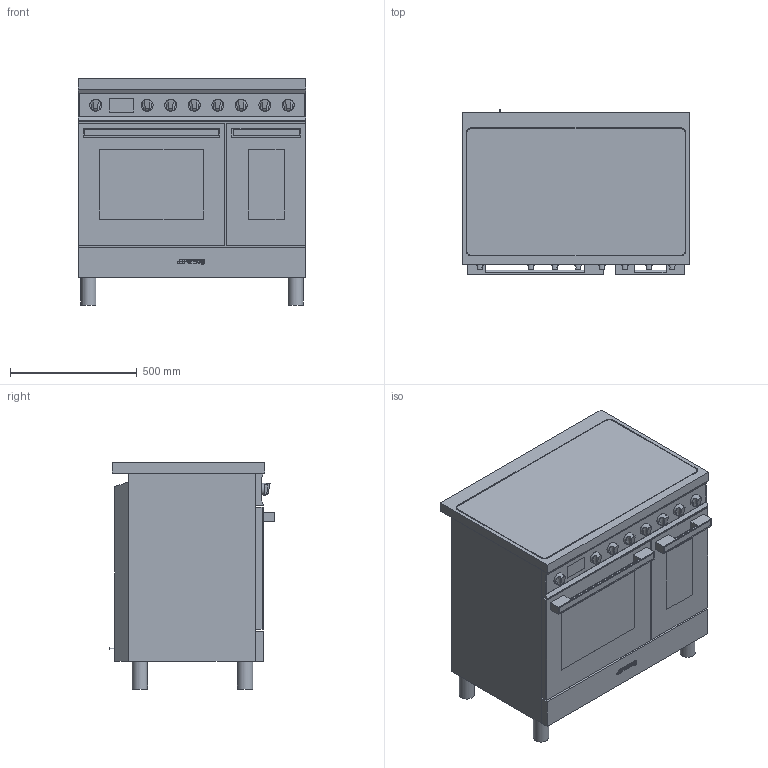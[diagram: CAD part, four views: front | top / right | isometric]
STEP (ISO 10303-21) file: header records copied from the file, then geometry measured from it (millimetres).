
FILE_DESCRIPTION(/* description */ (''),/* implementation_level */ '2;1');
FILE_NAME(/* name */ 'CPF92IMX.stp',/* time_stamp */ '2021-02-16T10:36:09+01:00',/* author */ (''),/* organization */ (''),/* preprocessor_version */ 'ST-DEVELOPER v16',/* originating_system */ 'SIEMENS PLM Software NX 11.0',/* authorisation */ '');
FILE_SCHEMA (('AUTOMOTIVE_DESIGN { 1 0 10303 214 3 1 1 1 }'));
Length unit declared in the file: millimetre
Products named in the file (1): Mart048817BCm2xd
Bounding box: 898 x 651.1 x 892.8 mm (x, y, z)
Volume: 405773121.9 mm3; surface area: 9680656 mm2
Topology: 40 solids, 40 shells, 354 faces, 790 edges, 524 vertices
Faces by surface type: plane 224, cylinder 67, bspline 48, extrusion 11, torus 4
Full cylindrical faces by diameter (mm): 6 x5, 7 x4, 9.6 x6, 22 x8, 46.483 x8, 60 x4
Entity records: 13685 total; most frequent: CARTESIAN_POINT 6064, ORIENTED_EDGE 1492, DIRECTION 1320, EDGE_CURVE 746, VERTEX_POINT 516, AXIS2_PLACEMENT_3D 442, VECTOR 436, EDGE_LOOP 428
